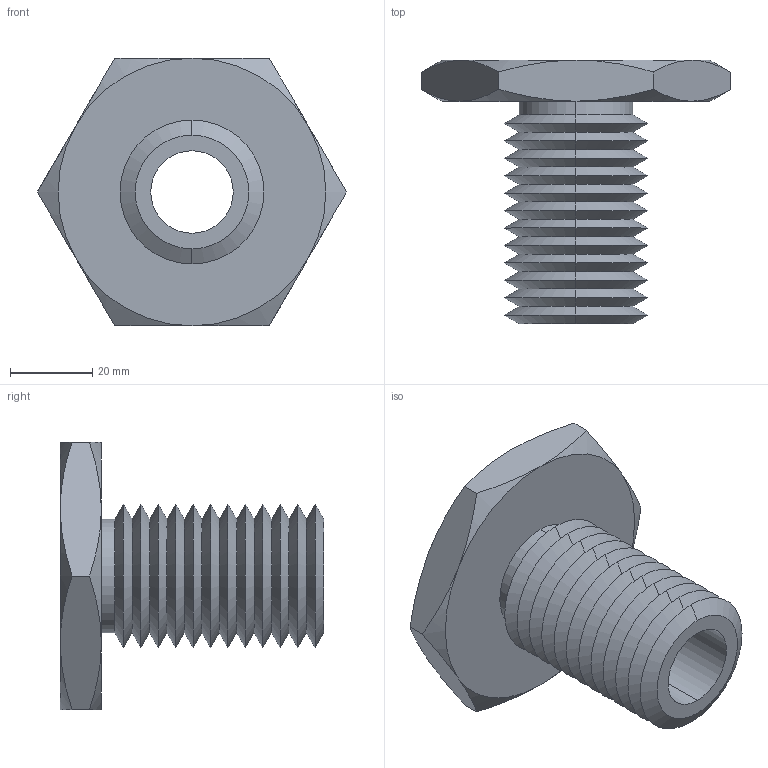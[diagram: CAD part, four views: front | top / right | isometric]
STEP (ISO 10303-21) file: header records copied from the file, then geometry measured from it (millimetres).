
FILE_DESCRIPTION (( 'STEP AP203' ), '1' );
FILE_NAME ('63302.W5138_M20x2,5.step', '2013-12-08T11:42:21', ( 'User' ), ( '' ), 'SwSTEP 2.0', 'SolidWorks 2009', '' );
FILE_SCHEMA (( 'CONFIG_CONTROL_DESIGN' ));
Length unit declared in the file: millimetre
Products named in the file (1): 63302.W5138_M20x2,5
Bounding box: 75.06 x 64 x 65 mm (x, y, z)
Volume: 56765.4 mm3; surface area: 22788.6 mm2
Topology: 1 solids, 1 shells, 75 faces, 154 edges, 82 vertices
Faces by surface type: cone 62, plane 9, cylinder 4
Entity records: 2139 total; most frequent: CARTESIAN_POINT 496, DIRECTION 352, ORIENTED_EDGE 308, EDGE_CURVE 154, AXIS2_PLACEMENT_3D 146, VERTEX_POINT 82, EDGE_LOOP 78, ADVANCED_FACE 75
